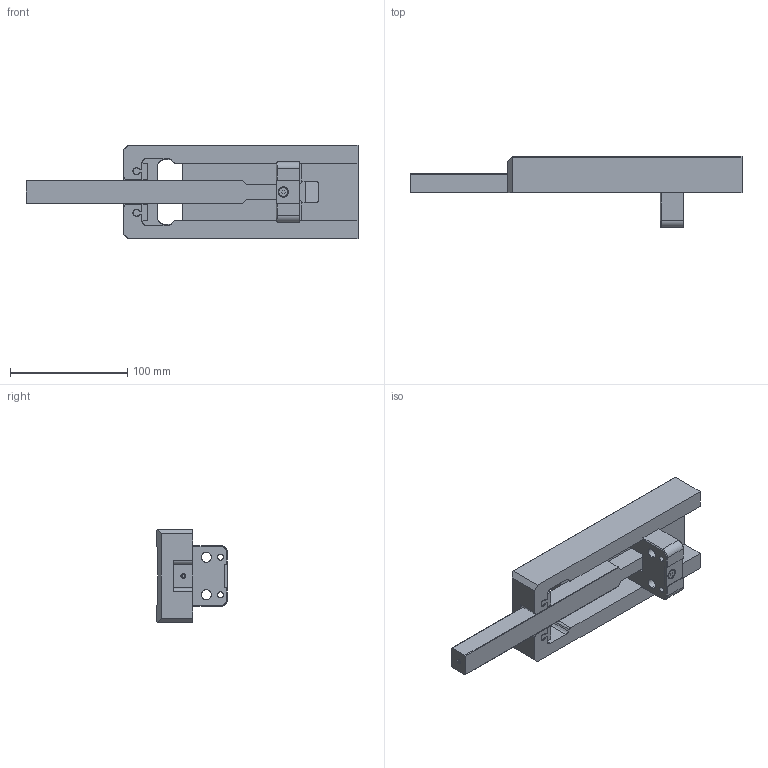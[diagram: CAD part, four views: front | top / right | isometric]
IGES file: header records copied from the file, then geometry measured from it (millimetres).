
Start section: SolidWorks IGES file using analytic representation for surfaces
Global section: file name: G:\CAD\Hakdrag\SA\SA-110\SA-110-200-25.igs; native system: SolidWorks 2015; preprocessor: SolidWorks 2015; author: ChBe; date: 150616.075803; units: millimetre
Bounding box: 283.64 x 60.6 x 80 mm (x, y, z)
Surface area: 83576.1 mm2 (no closed solid volume)
Topology: 0 solids, 0 shells, 154 faces, 1812 edges, 1812 vertices
Faces by surface type: bspline 97, revolution 57
